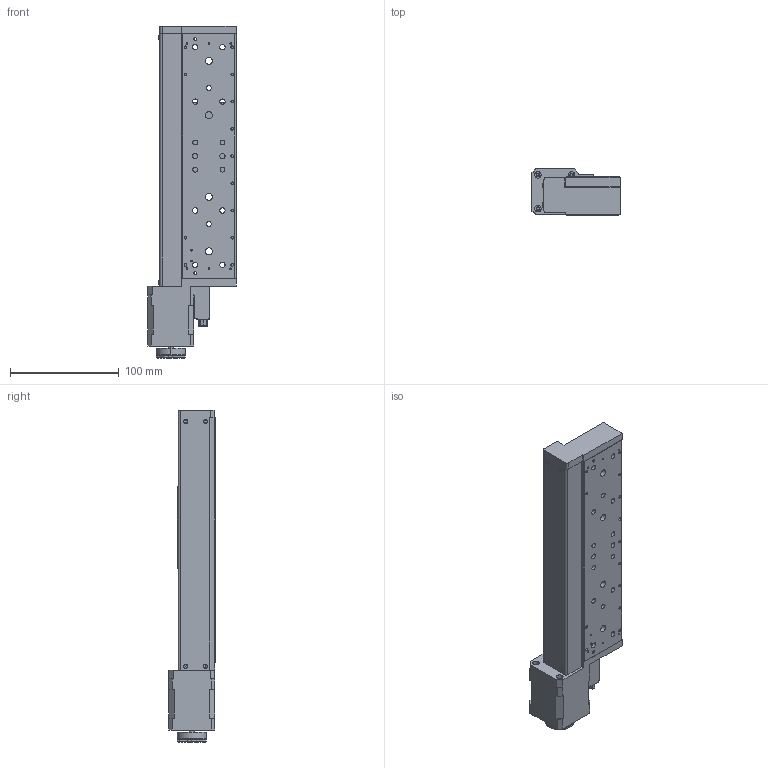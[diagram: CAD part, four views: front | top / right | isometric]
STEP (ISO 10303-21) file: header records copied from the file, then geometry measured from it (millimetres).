
FILE_DESCRIPTION (( 'STEP AP203' ), '1' );
FILE_NAME ('8MT50-150.STEP', '2010-10-08T06:39:49', ( 'Darius' ), ( '' ), 'SwSTEP 2.0', 'SolidWorks 2003240', '' );
FILE_SCHEMA (( 'CONFIG_CONTROL_DESIGN' ));
Products named in the file (1): 8MT50-150
Bounding box: 81 x 42.5 x 305 mm (x, y, z)
Volume: 516907 mm3; surface area: 112949.5 mm2
Topology: 1 solids, 37 shells, 2509 faces, 6506 edges, 4143 vertices
Faces by surface type: cylinder 1011, plane 982, cone 276, bspline 240
Entity records: 83306 total; most frequent: CARTESIAN_POINT 23291, ORIENTED_EDGE 12772, DIRECTION 12214, EDGE_CURVE 6386, AXIS2_PLACEMENT_3D 4662, VERTEX_POINT 4143, VECTOR 2890, LINE 2890
